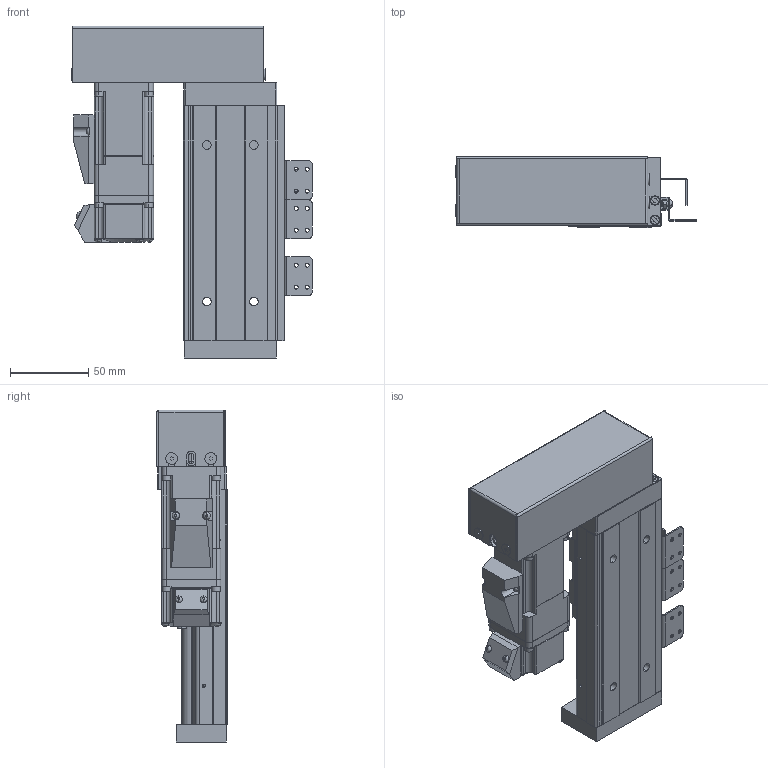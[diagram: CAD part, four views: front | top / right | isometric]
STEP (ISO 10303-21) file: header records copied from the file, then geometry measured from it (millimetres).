
FILE_DESCRIPTION (( 'STEP AP203' ), '1' );
FILE_NAME ('KH60D10C-150A1-H2RS0 - Z.STEP', '2022-06-09T01:27:01', ( 'CXY' ), ( 'BT' ), 'SwSTEP 2.0', 'SolidWorks 2016', '' );
FILE_SCHEMA (( 'CONFIG_CONTROL_DESIGN' ));
Length unit declared in the file: millimetre
Products named in the file (21): KK60-02-01-H0_KK60-02-01-H0&H1; KH60D10C-150A1-H2RS0 - Z; KK60-02-03; KK60-08-01; B-KK60-A1-F0C; KH86-08-SX674; 内六角圆柱头螺钉M3×18; 錨璃2; 内六角圆柱头螺钉M3×10; KH60-02-0000; 216々湍; 囀鞠褒す埴芛蹟隊M3℅5; 晦埴芛M3X6蹟隊; KK60-01-02-XXXX_KK60-01-02-150; 鞠褒蹟譫M3; KH60-500; 侂狟萇儂P10B; KK60-02-04; 綴釱; KK60-02-02; KK60-04-07G
Assembly tree (33 placements, depth 3):
  KH60D10C-150A1-H2RS0 - Z
    KH60-500
    B-KK60-A1-F0C
      錨璃2
    綴釱
    KH86-08-SX674  x3
      KK60-08-01
      囀鞠褒す埴芛蹟隊M3℅5
      鞠褒蹟譫M3
    KK60-01-02-XXXX_KK60-01-02-150
    KH60-02-0000
      KK60-02-01-H0_KK60-02-01-H0&H1
      KK60-02-02
      KK60-02-03
      内六角圆柱头螺钉M3×18  x4
      侂狟萇儂P10B
      KK60-02-04
      216々湍
      内六角圆柱头螺钉M3×10  x4
      晦埴芛M3X6蹟隊  x4
    KK60-04-07G
Bounding box: 153.7 x 45 x 212 mm (x, y, z)
Volume: 448742.4 mm3; surface area: 161702.1 mm2
Topology: 39 solids, 39 shells, 2130 faces, 5538 edges, 3559 vertices
Faces by surface type: plane 1020, cylinder 519, bspline 280, cone 237, torus 62, sphere 12
Entity records: 56540 total; most frequent: CARTESIAN_POINT 14236, ORIENTED_EDGE 8714, DIRECTION 7437, EDGE_CURVE 4357, VERTEX_POINT 2862, VECTOR 2723, LINE 2723, AXIS2_PLACEMENT_3D 2357
